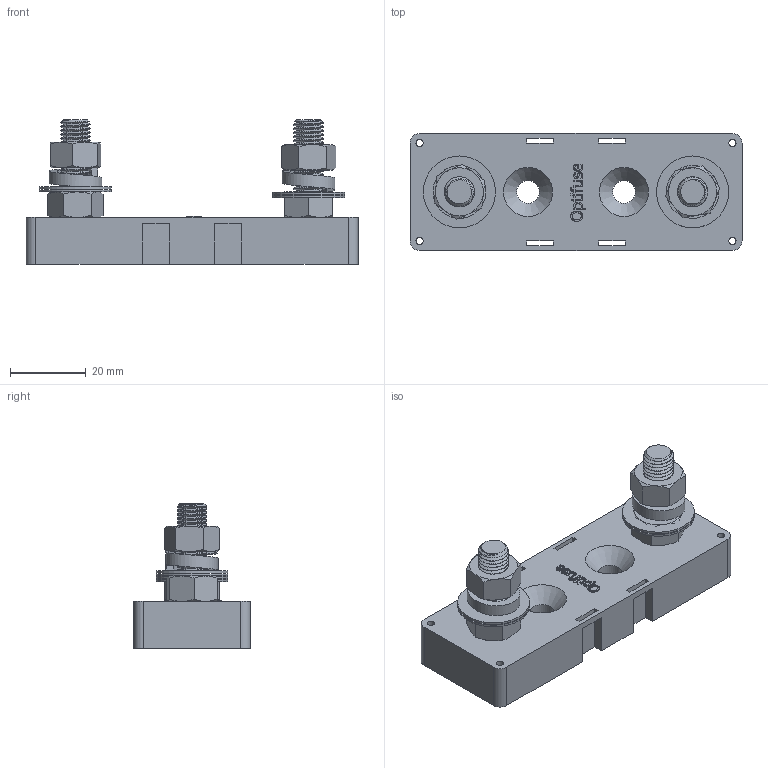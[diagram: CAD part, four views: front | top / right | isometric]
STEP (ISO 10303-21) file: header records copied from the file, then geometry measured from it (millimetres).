
FILE_DESCRIPTION(/* description */ (''),/* implementation_level */ '2;1');
FILE_NAME(/* name */ 'C:\Users\Hani\Desktop\work\BLC-09-GT\BLC-09-GT.stp',/* time_stamp */ '2021-07-06T15:14:55-07:00',/* author */ ('Hani'),/* organization */ (''),/* preprocessor_version */ 'ST-DEVELOPER v17',/* originating_system */ 'Autodesk Inventor 2019',/* authorisation */ '');
FILE_SCHEMA (('AUTOMOTIVE_DESIGN { 1 0 10303 214 3 1 1 }'));
Length unit declared in the file: inch
Products named in the file (6): BLC-08-GTA; BLC-08-GT; 5_16-24 HEX HEAD SCREW; FLAT WASHER; LOCK WASHER; 5_16-24 HEX NUT
Assembly tree (13 placements, depth 2):
  BLC-08-GTA
    BLC-08-GT
    5_16-24 HEX HEAD SCREW  x2
    5_16-24 HEX NUT  x4
    FLAT WASHER  x4
    LOCK WASHER  x2
Bounding box: 87.88 x 30.99 x 38.35 mm (x, y, z)
Volume: 39100.2 mm3; surface area: 18790 mm2
Topology: 13 solids, 13 shells, 582 faces, 1548 edges, 1016 vertices
Faces by surface type: cylinder 220, plane 195, bspline 85, cone 82
Full cylindrical faces by diameter (mm): 1.905 x4, 5.359 x1, 6.096 x2, 6.563 x72, 7.938 x78, 8.255 x4, 8.382 x1, 19.05 x4
Entity records: 17857 total; most frequent: CARTESIAN_POINT 9863, ORIENTED_EDGE 1846, DIRECTION 1257, EDGE_CURVE 923, VERTEX_POINT 613, LINE 485, VECTOR 485, AXIS2_PLACEMENT_3D 386
